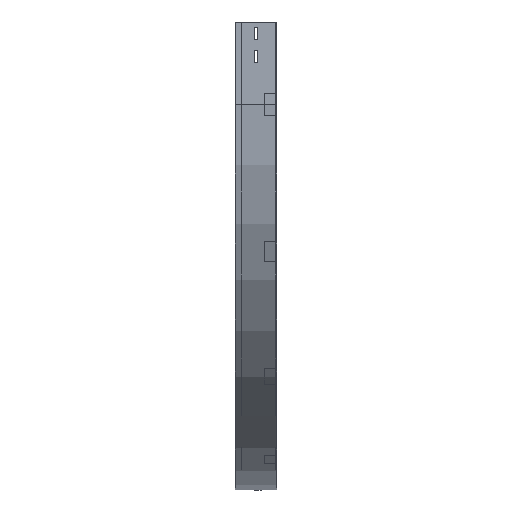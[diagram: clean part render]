
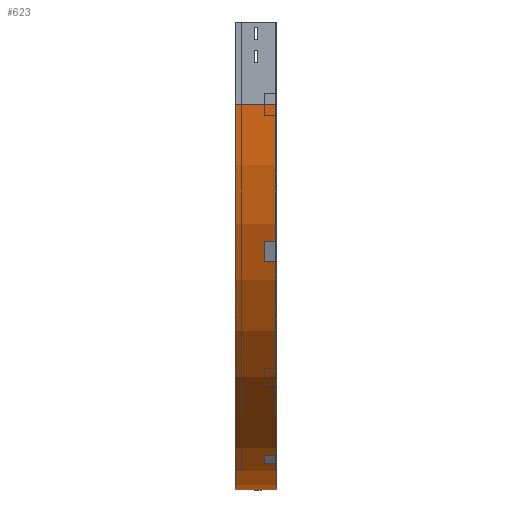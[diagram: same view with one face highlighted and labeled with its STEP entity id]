
A CAD part, left-side view. The second image highlights one B-rep face of the part: STEP entity #623.
In plain terms, the highlighted cylindrical face has radius 700 mm (diameter 1400 mm), a partial arc.
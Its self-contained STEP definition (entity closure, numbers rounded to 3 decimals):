
#65 = CARTESIAN_POINT ( 'NONE',  ( 700., 0., -150. ) ) ;
#158 = EDGE_LOOP ( 'NONE', ( #483, #3701, #1796, #1351 ) ) ;
#183 = CARTESIAN_POINT ( 'NONE',  ( 700., 0., -850. ) ) ;
#266 = VECTOR ( 'NONE', #1663, 1000. ) ;
#360 = CARTESIAN_POINT ( 'NONE',  ( 700., 0., -150. ) ) ;
#457 = EDGE_CURVE ( 'NONE', #1239, #1146, #3209, .T. ) ;
#483 = ORIENTED_EDGE ( 'NONE', *, *, #3624, .F. ) ;
#623 = ADVANCED_FACE ( 'NONE', ( #1499 ), #2117, .T. ) ;
#638 = CIRCLE ( 'NONE', #1073, 700. ) ;
#976 = CARTESIAN_POINT ( 'NONE',  ( 0., 0., -150. ) ) ;
#1073 = AXIS2_PLACEMENT_3D ( 'NONE', #2917, #3225, #3862 ) ;
#1146 = VERTEX_POINT ( 'NONE', #1525 ) ;
#1239 = VERTEX_POINT ( 'NONE', #2535 ) ;
#1351 = ORIENTED_EDGE ( 'NONE', *, *, #457, .T. ) ;
#1447 = CIRCLE ( 'NONE', #2377, 700. ) ;
#1499 = FACE_OUTER_BOUND ( 'NONE', #158, .T. ) ;
#1525 = CARTESIAN_POINT ( 'NONE',  ( 700., 0., -850. ) ) ;
#1542 = DIRECTION ( 'NONE',  ( -1., 0., 0. ) ) ;
#1544 = AXIS2_PLACEMENT_3D ( 'NONE', #65, #2692, #2772 ) ;
#1663 = DIRECTION ( 'NONE',  ( 0., -1., 0. ) ) ;
#1796 = ORIENTED_EDGE ( 'NONE', *, *, #3453, .T. ) ;
#2117 = CYLINDRICAL_SURFACE ( 'NONE', #1544, 700. ) ;
#2194 = CARTESIAN_POINT ( 'NONE',  ( 0., 0., -150. ) ) ;
#2304 = DIRECTION ( 'NONE',  ( 0., -1., 0. ) ) ;
#2377 = AXIS2_PLACEMENT_3D ( 'NONE', #360, #3657, #1542 ) ;
#2535 = CARTESIAN_POINT ( 'NONE',  ( 700., 75., -850. ) ) ;
#2582 = CARTESIAN_POINT ( 'NONE',  ( 0., 75., -150. ) ) ;
#2692 = DIRECTION ( 'NONE',  ( 0., -1., 0. ) ) ;
#2772 = DIRECTION ( 'NONE',  ( 0., 0., -1. ) ) ;
#2891 = LINE ( 'NONE', #2194, #266 ) ;
#2917 = CARTESIAN_POINT ( 'NONE',  ( 700., 75., -150. ) ) ;
#3209 = LINE ( 'NONE', #183, #3685 ) ;
#3225 = DIRECTION ( 'NONE',  ( 0., -1., 0. ) ) ;
#3394 = EDGE_CURVE ( 'NONE', #3481, #3643, #2891, .T. ) ;
#3453 = EDGE_CURVE ( 'NONE', #3481, #1239, #638, .T. ) ;
#3481 = VERTEX_POINT ( 'NONE', #2582 ) ;
#3624 = EDGE_CURVE ( 'NONE', #3643, #1146, #1447, .T. ) ;
#3643 = VERTEX_POINT ( 'NONE', #976 ) ;
#3657 = DIRECTION ( 'NONE',  ( 0., -1., 0. ) ) ;
#3685 = VECTOR ( 'NONE', #2304, 1000. ) ;
#3701 = ORIENTED_EDGE ( 'NONE', *, *, #3394, .F. ) ;
#3862 = DIRECTION ( 'NONE',  ( -1., 0., 0. ) ) ;
